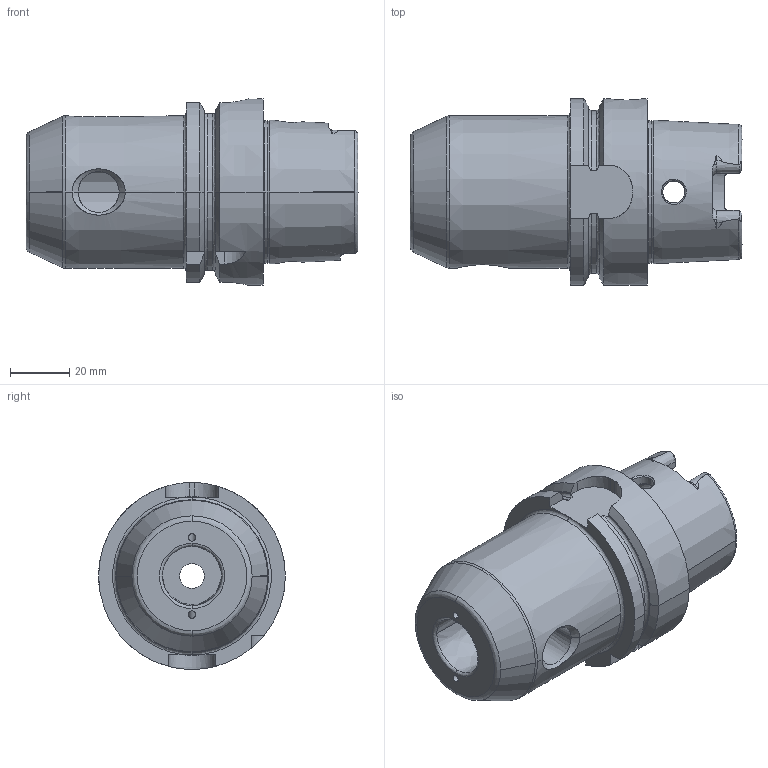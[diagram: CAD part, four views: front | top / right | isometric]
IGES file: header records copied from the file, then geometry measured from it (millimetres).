
Start section: 3D InterOp IGES (v. 2020 1.0.0), Spatial Corp. Copyright (c) 1999-2017.
Global section: file name: cctmp_B789EBDA-DBD7-490C-BC55-621B0C59FD76_2022_11_08_15_00_58_0715_17832..igs; native system: Spatial Corp.; preprocessor: 3D InterOp ACIS/IGES; author: Meusburger Georg GmbH & Co KG; organization: CADClick - www.CADClick.com; date: 20221108.150058; units: millimetre
Bounding box: 112 x 63 x 63 mm (x, y, z)
Surface area: 34538.7 mm2 (no closed solid volume)
Topology: 0 solids, 0 shells, 189 faces, 1051 edges, 1044 vertices
Faces by surface type: revolution 135, extrusion 47, bspline 7
